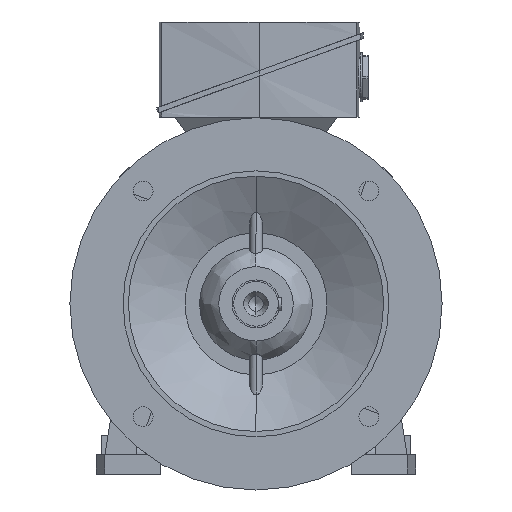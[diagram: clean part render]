
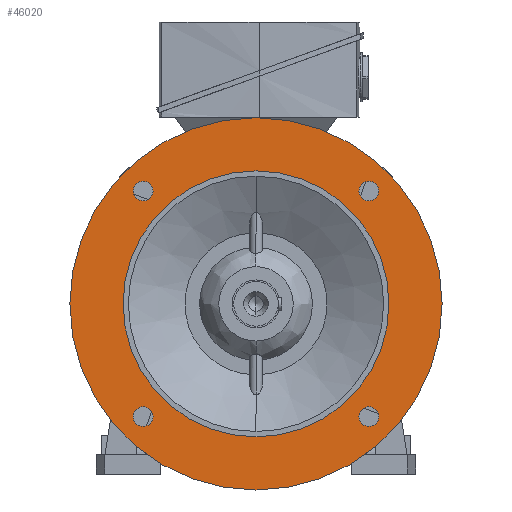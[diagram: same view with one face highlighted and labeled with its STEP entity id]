
A CAD part, left-side view. The second image highlights one B-rep face of the part: STEP entity #46020.
In plain terms, the highlighted planar face has unit normal (-1, 0, 0).
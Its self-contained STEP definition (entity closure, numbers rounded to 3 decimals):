
#149 = FACE_BOUND ( 'NONE', #10517, .T. ) ;
#350 = VERTEX_POINT ( 'NONE', #33018 ) ;
#1654 = AXIS2_PLACEMENT_3D ( 'NONE', #5770, #5704, #5694 ) ;
#1714 = CIRCLE ( 'NONE', #23251, 9.25 ) ;
#1896 = CARTESIAN_POINT ( 'NONE',  ( -80., -106.066, 115.316 ) ) ;
#3578 = CIRCLE ( 'NONE', #1654, 175. ) ;
#4028 = EDGE_LOOP ( 'NONE', ( #35845, #38404 ) ) ;
#4048 = CARTESIAN_POINT ( 'NONE',  ( -80., -106.066, 106.066 ) ) ;
#5428 = CIRCLE ( 'NONE', #39673, 9.25 ) ;
#5668 = CARTESIAN_POINT ( 'NONE',  ( -80., -106.066, -115.316 ) ) ;
#5694 = DIRECTION ( 'NONE',  ( 0., 0., 1. ) ) ;
#5704 = DIRECTION ( 'NONE',  ( 1., 0., 0. ) ) ;
#5770 = CARTESIAN_POINT ( 'NONE',  ( -80., 0., 0. ) ) ;
#6376 = CARTESIAN_POINT ( 'NONE',  ( -80., 106.066, 115.316 ) ) ;
#6847 = FACE_BOUND ( 'NONE', #37415, .T. ) ;
#8468 = AXIS2_PLACEMENT_3D ( 'NONE', #40461, #41301, #45757 ) ;
#8771 = AXIS2_PLACEMENT_3D ( 'NONE', #53230, #53169, #53134 ) ;
#8936 = VERTEX_POINT ( 'NONE', #18113 ) ;
#9264 = EDGE_LOOP ( 'NONE', ( #26246, #27760 ) ) ;
#9320 = FACE_BOUND ( 'NONE', #37384, .T. ) ;
#9601 = DIRECTION ( 'NONE',  ( 0., 0., -1. ) ) ;
#10517 = EDGE_LOOP ( 'NONE', ( #29647, #31031 ) ) ;
#13586 = AXIS2_PLACEMENT_3D ( 'NONE', #43418, #43344, #43266 ) ;
#14480 = AXIS2_PLACEMENT_3D ( 'NONE', #4048, #41416, #9601 ) ;
#16226 = CARTESIAN_POINT ( 'NONE',  ( -80., 0., -125. ) ) ;
#16443 = CIRCLE ( 'NONE', #47553, 125. ) ;
#16513 = VERTEX_POINT ( 'NONE', #1896 ) ;
#16906 = CARTESIAN_POINT ( 'NONE',  ( -80., 0., 0. ) ) ;
#18046 = CIRCLE ( 'NONE', #8468, 9.25 ) ;
#18113 = CARTESIAN_POINT ( 'NONE',  ( -80., 0., 125. ) ) ;
#18174 = AXIS2_PLACEMENT_3D ( 'NONE', #16906, #45169, #20031 ) ;
#19220 = VERTEX_POINT ( 'NONE', #20906 ) ;
#20031 = DIRECTION ( 'NONE',  ( 0., 0., 1. ) ) ;
#20443 = FACE_BOUND ( 'NONE', #44426, .T. ) ;
#20544 = VERTEX_POINT ( 'NONE', #5668 ) ;
#20906 = CARTESIAN_POINT ( 'NONE',  ( -80., 106.066, 96.816 ) ) ;
#20932 = CARTESIAN_POINT ( 'NONE',  ( -80., 106.066, -115.316 ) ) ;
#21414 = EDGE_CURVE ( 'NONE', #24358, #350, #38122, .T. ) ;
#21571 = EDGE_CURVE ( 'NONE', #51621, #16513, #33468, .T. ) ;
#21759 = EDGE_CURVE ( 'NONE', #19220, #26483, #18046, .T. ) ;
#21845 = EDGE_CURVE ( 'NONE', #33544, #52930, #47869, .T. ) ;
#22141 = VERTEX_POINT ( 'NONE', #47277 ) ;
#22270 = EDGE_CURVE ( 'NONE', #20544, #22141, #31448, .T. ) ;
#22759 = DIRECTION ( 'NONE',  ( 0., 0., -1. ) ) ;
#22818 = DIRECTION ( 'NONE',  ( 1., 0., 0. ) ) ;
#22827 = CARTESIAN_POINT ( 'NONE',  ( -80., 106.066, 106.066 ) ) ;
#22967 = CARTESIAN_POINT ( 'NONE',  ( -80., -106.066, 96.816 ) ) ;
#23251 = AXIS2_PLACEMENT_3D ( 'NONE', #27088, #27034, #27024 ) ;
#23519 = ORIENTED_EDGE ( 'NONE', *, *, #41761, .T. ) ;
#23596 = FACE_BOUND ( 'NONE', #4028, .T. ) ;
#24358 = VERTEX_POINT ( 'NONE', #35313 ) ;
#24914 = ORIENTED_EDGE ( 'NONE', *, *, #37859, .T. ) ;
#25853 = AXIS2_PLACEMENT_3D ( 'NONE', #29894, #29877, #29836 ) ;
#26246 = ORIENTED_EDGE ( 'NONE', *, *, #21414, .F. ) ;
#26483 = VERTEX_POINT ( 'NONE', #6376 ) ;
#27024 = DIRECTION ( 'NONE',  ( 0., 0., -1. ) ) ;
#27034 = DIRECTION ( 'NONE',  ( 1., 0., 0. ) ) ;
#27088 = CARTESIAN_POINT ( 'NONE',  ( -80., -106.066, -106.066 ) ) ;
#27760 = ORIENTED_EDGE ( 'NONE', *, *, #34133, .F. ) ;
#28060 = CARTESIAN_POINT ( 'NONE',  ( -80., 106.066, -96.816 ) ) ;
#29446 = DIRECTION ( 'NONE',  ( 0., 0., -1. ) ) ;
#29460 = DIRECTION ( 'NONE',  ( 1., 0., 0. ) ) ;
#29498 = CARTESIAN_POINT ( 'NONE',  ( -80., 106.066, -106.066 ) ) ;
#29647 = ORIENTED_EDGE ( 'NONE', *, *, #21571, .T. ) ;
#29836 = DIRECTION ( 'NONE',  ( 0., 0., 1. ) ) ;
#29877 = DIRECTION ( 'NONE',  ( 1., 0., 0. ) ) ;
#29894 = CARTESIAN_POINT ( 'NONE',  ( -80., 0., 0. ) ) ;
#30042 = CIRCLE ( 'NONE', #30540, 9.25 ) ;
#30540 = AXIS2_PLACEMENT_3D ( 'NONE', #22827, #22818, #22759 ) ;
#31031 = ORIENTED_EDGE ( 'NONE', *, *, #35150, .T. ) ;
#31448 = CIRCLE ( 'NONE', #13586, 9.25 ) ;
#32539 = ORIENTED_EDGE ( 'NONE', *, *, #21759, .T. ) ;
#32590 = DIRECTION ( 'NONE',  ( 0., 0., 1. ) ) ;
#32703 = AXIS2_PLACEMENT_3D ( 'NONE', #29498, #29460, #29446 ) ;
#32759 = DIRECTION ( 'NONE',  ( 1., 0., 0. ) ) ;
#32768 = CARTESIAN_POINT ( 'NONE',  ( -80., 0., 0. ) ) ;
#32861 = DIRECTION ( 'NONE',  ( 0., 0., 1. ) ) ;
#32921 = DIRECTION ( 'NONE',  ( -1., 0., 0. ) ) ;
#32976 = CARTESIAN_POINT ( 'NONE',  ( -80., 150., 0. ) ) ;
#33018 = CARTESIAN_POINT ( 'NONE',  ( -80., 0., -175. ) ) ;
#33468 = CIRCLE ( 'NONE', #14480, 9.25 ) ;
#33544 = VERTEX_POINT ( 'NONE', #20932 ) ;
#33858 = PLANE ( 'NONE',  #50443 ) ;
#34064 = ORIENTED_EDGE ( 'NONE', *, *, #40265, .T. ) ;
#34133 = EDGE_CURVE ( 'NONE', #350, #24358, #3578, .T. ) ;
#35150 = EDGE_CURVE ( 'NONE', #16513, #51621, #5428, .T. ) ;
#35283 = FACE_OUTER_BOUND ( 'NONE', #9264, .T. ) ;
#35313 = CARTESIAN_POINT ( 'NONE',  ( -80., 0., 175. ) ) ;
#35845 = ORIENTED_EDGE ( 'NONE', *, *, #21845, .T. ) ;
#36226 = VERTEX_POINT ( 'NONE', #16226 ) ;
#37384 = EDGE_LOOP ( 'NONE', ( #40863, #43657 ) ) ;
#37415 = EDGE_LOOP ( 'NONE', ( #32539, #34064 ) ) ;
#37859 = EDGE_CURVE ( 'NONE', #36226, #8936, #43289, .T. ) ;
#37875 = EDGE_CURVE ( 'NONE', #52930, #33544, #43030, .T. ) ;
#38122 = CIRCLE ( 'NONE', #18174, 175. ) ;
#38404 = ORIENTED_EDGE ( 'NONE', *, *, #37875, .T. ) ;
#39673 = AXIS2_PLACEMENT_3D ( 'NONE', #42108, #42058, #41995 ) ;
#40121 = EDGE_CURVE ( 'NONE', #22141, #20544, #1714, .T. ) ;
#40265 = EDGE_CURVE ( 'NONE', #26483, #19220, #30042, .T. ) ;
#40461 = CARTESIAN_POINT ( 'NONE',  ( -80., 106.066, 106.066 ) ) ;
#40863 = ORIENTED_EDGE ( 'NONE', *, *, #22270, .T. ) ;
#41301 = DIRECTION ( 'NONE',  ( 1., 0., 0. ) ) ;
#41416 = DIRECTION ( 'NONE',  ( 1., 0., 0. ) ) ;
#41761 = EDGE_CURVE ( 'NONE', #8936, #36226, #16443, .T. ) ;
#41995 = DIRECTION ( 'NONE',  ( 0., 0., -1. ) ) ;
#42058 = DIRECTION ( 'NONE',  ( 1., 0., 0. ) ) ;
#42108 = CARTESIAN_POINT ( 'NONE',  ( -80., -106.066, 106.066 ) ) ;
#43030 = CIRCLE ( 'NONE', #32703, 9.25 ) ;
#43266 = DIRECTION ( 'NONE',  ( 0., 0., -1. ) ) ;
#43289 = CIRCLE ( 'NONE', #25853, 125. ) ;
#43344 = DIRECTION ( 'NONE',  ( 1., 0., 0. ) ) ;
#43418 = CARTESIAN_POINT ( 'NONE',  ( -80., -106.066, -106.066 ) ) ;
#43657 = ORIENTED_EDGE ( 'NONE', *, *, #40121, .T. ) ;
#44426 = EDGE_LOOP ( 'NONE', ( #23519, #24914 ) ) ;
#45169 = DIRECTION ( 'NONE',  ( 1., 0., 0. ) ) ;
#45757 = DIRECTION ( 'NONE',  ( 0., 0., -1. ) ) ;
#46020 = ADVANCED_FACE ( 'NONE', ( #20443, #35283, #149, #6847, #23596, #9320 ), #33858, .T. ) ;
#47277 = CARTESIAN_POINT ( 'NONE',  ( -80., -106.066, -96.816 ) ) ;
#47553 = AXIS2_PLACEMENT_3D ( 'NONE', #32768, #32759, #32590 ) ;
#47869 = CIRCLE ( 'NONE', #8771, 9.25 ) ;
#50443 = AXIS2_PLACEMENT_3D ( 'NONE', #32976, #32921, #32861 ) ;
#51621 = VERTEX_POINT ( 'NONE', #22967 ) ;
#52930 = VERTEX_POINT ( 'NONE', #28060 ) ;
#53134 = DIRECTION ( 'NONE',  ( 0., 0., -1. ) ) ;
#53169 = DIRECTION ( 'NONE',  ( 1., 0., 0. ) ) ;
#53230 = CARTESIAN_POINT ( 'NONE',  ( -80., 106.066, -106.066 ) ) ;
